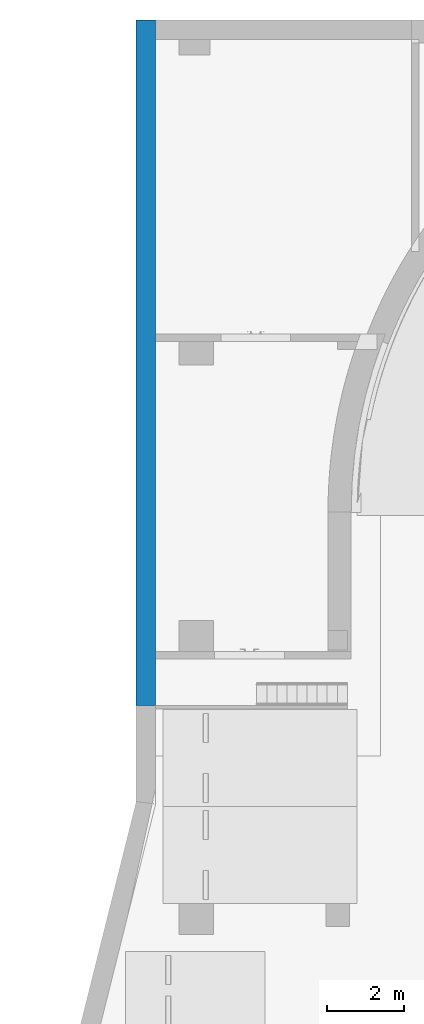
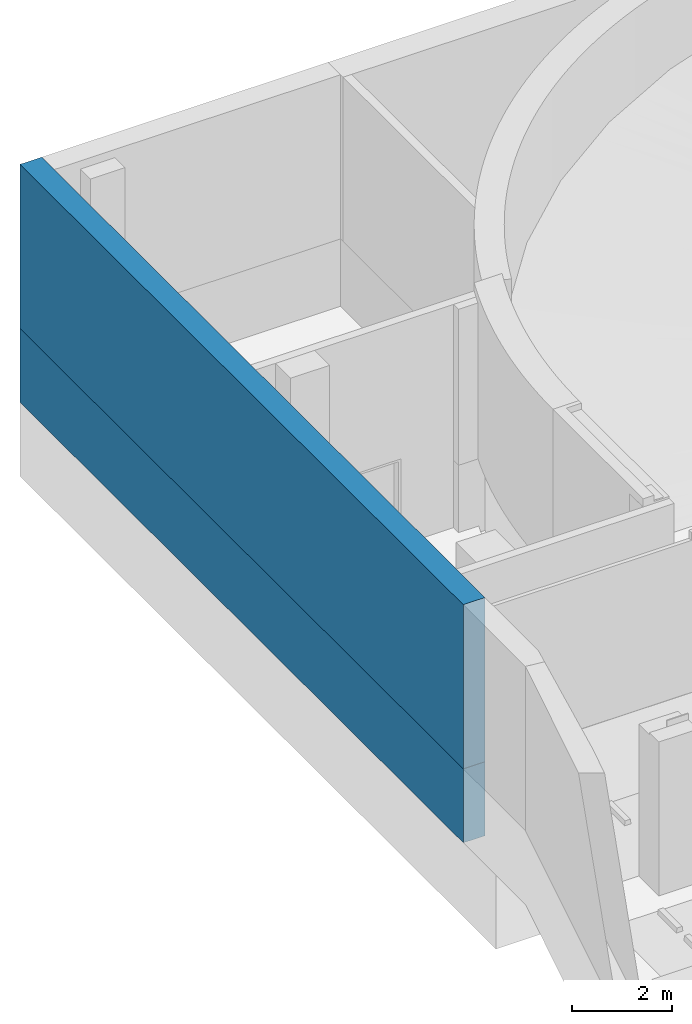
# One storey, part 7 of 30: 2 walls.
"""IFC2X3 building model written with IfcOpenShell, lengths in millimetres."""

from ifc_helpers import new_model, entity, si_unit, converted_unit, derived_unit, direction, frame, frame_2d, origin, place, context, subcontext, project, spatial, rectangle, extrude, material, layer, layer_set, layer_usage, type_object, element, save


model = new_model("IFC2X3")

# Units and contexts
model_context = context("Model", 3, precision=0.01, world=origin(), true_north=direction((6.123031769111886e-17, 1.0)))
body_context = subcontext(model_context, "Body", "Model", "MODEL_VIEW")
ifc_project = project(units=[si_unit("LENGTHUNIT", "METRE", prefix="MILLI"), si_unit("AREAUNIT", "SQUARE_METRE"), si_unit("VOLUMEUNIT", "CUBIC_METRE"), converted_unit("PLANEANGLEUNIT", "DEGREE", entity("IfcRatioMeasure", 0.017453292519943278), si_unit("PLANEANGLEUNIT", "RADIAN"), dimensions=[0, 0, 0, 0, 0, 0, 0]), si_unit("MASSUNIT", "GRAM", prefix="KILO"), derived_unit("MASSDENSITYUNIT", [(si_unit("MASSUNIT", "GRAM", prefix="KILO"), 1), (si_unit("LENGTHUNIT", "METRE"), -3)]), derived_unit("MOMENTOFINERTIAUNIT", [(si_unit("LENGTHUNIT", "METRE"), 4)]), si_unit("TIMEUNIT", "SECOND"), si_unit("FREQUENCYUNIT", "HERTZ"), si_unit("THERMODYNAMICTEMPERATUREUNIT", "DEGREE_CELSIUS"), derived_unit("THERMALTRANSMITTANCEUNIT", [(si_unit("MASSUNIT", "GRAM", prefix="KILO"), 1), (si_unit("THERMODYNAMICTEMPERATUREUNIT", "KELVIN"), -1), (si_unit("TIMEUNIT", "SECOND"), -3)]), derived_unit("VOLUMETRICFLOWRATEUNIT", [(si_unit("LENGTHUNIT", "METRE"), 3), (si_unit("TIMEUNIT", "SECOND"), -1)]), derived_unit("MASSFLOWRATEUNIT", [(si_unit("MASSUNIT", "GRAM", prefix="KILO"), 1), (si_unit("TIMEUNIT", "SECOND"), -1)]), derived_unit("ROTATIONALFREQUENCYUNIT", [(si_unit("TIMEUNIT", "SECOND"), -1)]), si_unit("ELECTRICCURRENTUNIT", "AMPERE"), si_unit("ELECTRICVOLTAGEUNIT", "VOLT"), si_unit("POWERUNIT", "WATT"), si_unit("FORCEUNIT", "NEWTON", prefix="KILO"), si_unit("ILLUMINANCEUNIT", "LUX"), si_unit("LUMINOUSFLUXUNIT", "LUMEN"), si_unit("LUMINOUSINTENSITYUNIT", "CANDELA"), derived_unit("USERDEFINED", [(si_unit("MASSUNIT", "GRAM", prefix="KILO"), -1), (si_unit("LENGTHUNIT", "METRE"), -2), (si_unit("TIMEUNIT", "SECOND"), 3), (si_unit("LUMINOUSFLUXUNIT", "LUMEN"), 1)]), derived_unit("SOUNDPOWERUNIT", [(si_unit("MASSUNIT", "GRAM", prefix="KILO"), 1), (si_unit("LENGTHUNIT", "METRE"), 2), (si_unit("TIMEUNIT", "SECOND"), -3)]), derived_unit("SOUNDPRESSUREUNIT", [(si_unit("MASSUNIT", "GRAM", prefix="KILO"), 1), (si_unit("LENGTHUNIT", "METRE"), -1), (si_unit("TIMEUNIT", "SECOND"), -2)]), derived_unit("LINEARVELOCITYUNIT", [(si_unit("LENGTHUNIT", "METRE"), 1), (si_unit("TIMEUNIT", "SECOND"), -1)]), si_unit("PRESSUREUNIT", "PASCAL"), derived_unit("USERDEFINED", [(si_unit("LENGTHUNIT", "METRE"), -2), (si_unit("MASSUNIT", "GRAM", prefix="KILO"), 1), (si_unit("TIMEUNIT", "SECOND"), -2)]), derived_unit("LINEARFORCEUNIT", [(si_unit("MASSUNIT", "GRAM", prefix="KILO"), 1), (si_unit("LENGTHUNIT", "METRE"), 1), (si_unit("TIMEUNIT", "SECOND"), -2), (si_unit("LENGTHUNIT", "METRE"), -1)]), derived_unit("PLANARFORCEUNIT", [(si_unit("MASSUNIT", "GRAM", prefix="KILO"), 1), (si_unit("LENGTHUNIT", "METRE"), 1), (si_unit("TIMEUNIT", "SECOND"), -2), (si_unit("LENGTHUNIT", "METRE"), -2)])], contexts=[model_context])

# Site, building, storey
site_placement = place(None, frame((-14167.972527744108, -657.2125860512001, 0.0)))
site = spatial("IfcSite", under=ifc_project, at=site_placement, Name="Default", CompositionType="ELEMENT")
building_placement = place(site_placement, origin())
building = spatial("IfcBuilding", under=site, at=building_placement, Name="Sample Building", CompositionType="ELEMENT")
storey_placement = place(building_placement, frame((0.0, 0.0, -10100.0)))
storey = spatial("IfcBuildingStorey", under=building, at=storey_placement, Name="지하2층", CompositionType="ELEMENT", Elevation=-10100.0)

# Walls
ifc_material = material(Name="KBIMS-콘크리트")
ifc_layer_1 = layer(ifc_material, 500.00000000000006)
ifc_layer_set_1 = layer_set([ifc_layer_1], Name="기본 벽:WA111-철근콘크리트구조 벽 500mm_BW1")
ifc_layer_usage_1 = layer_usage(ifc_layer_set_1, "AXIS2", "NEGATIVE", 250.00000000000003)
wall_type_1 = type_object("IfcWallType", Name="기본 벽:WA111-철근콘크리트구조 벽 500mm_BW1", PredefinedType="STANDARD", material=ifc_layer_set_1)
wall_1_placement = place(storey_placement, frame((13217.972491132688, 18157.212307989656, -1800.0), z_axis=(0.0, 0.0, 1.0), x_axis=(0.0, 1.0, 0.0)))
element("IfcWallStandardCase", 1, at=wall_1_placement, inside=storey, type_object=wall_type_1, material=ifc_layer_usage_1, Name="기본 벽:WA111-철근콘크리트구조 벽 500mm_BW1", ObjectType="기본 벽:WA111-철근콘크리트구조 벽 500mm_BW1", context=body_context, shape_type="SweptSolid", body=[
    extrude(rectangle(XDim=17700.00000000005, YDim=500.00000000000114, at=frame_2d((8850.000000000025, -8.100187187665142e-13), x_axis=(-1.0, 0.0))), origin(), (0.0, 0.0, 1.0), 1799.999999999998),
])
ifc_layer_2 = layer(ifc_material, 500.00000000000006)
ifc_layer_set_2 = layer_set([ifc_layer_2], Name="기본 벽:WA111-철근콘크리트구조 벽 500mm_BW5")
ifc_layer_usage_2 = layer_usage(ifc_layer_set_2, "AXIS2", "NEGATIVE", 250.00000000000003)
wall_type_2 = type_object("IfcWallType", Name="기본 벽:WA111-철근콘크리트구조 벽 500mm_BW5", PredefinedType="STANDARD", material=ifc_layer_set_2)
wall_2_placement = place(storey_placement, frame((13217.972491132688, 18161.833433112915, 0.0), z_axis=(0.0, 0.0, 1.0), x_axis=(0.0, 1.0, 0.0)))
element("IfcWallStandardCase", 2, at=wall_2_placement, inside=storey, type_object=wall_type_2, material=ifc_layer_usage_2, Name="기본 벽:WA111-철근콘크리트구조 벽 500mm_BW5", ObjectType="기본 벽:WA111-철근콘크리트구조 벽 500mm_BW5", context=body_context, shape_type="SweptSolid", body=[
    extrude(rectangle(XDim=17695.344191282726, YDim=500.00000000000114, at=frame_2d((8847.672095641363, -4.831690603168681e-13), x_axis=(-1.0, 0.0))), origin(), (0.0, 0.0, 1.0), 4000.0000000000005),
])

save(model, "model.ifc")
